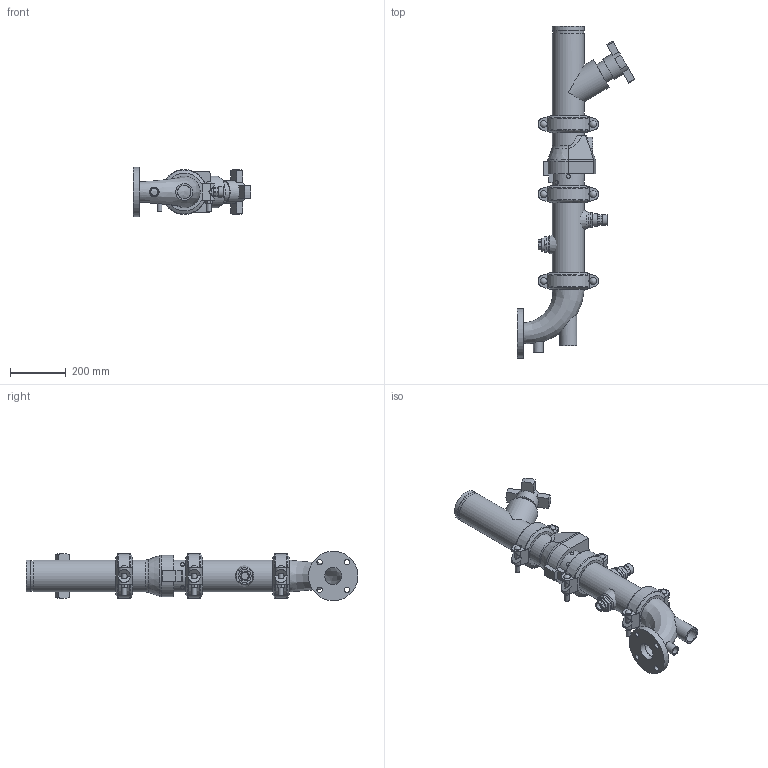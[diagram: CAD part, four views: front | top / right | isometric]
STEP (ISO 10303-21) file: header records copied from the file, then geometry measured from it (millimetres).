
FILE_DESCRIPTION(/* description */ ('VIC DVI PUMP DROP HORZ S/383 (OGSxFLG) (S/924-0.75)','CAx-IF Rec.Pracs.---Representation and Presentation of Product Manufacturing Information (PMI)---4.0---2014-10-13'),/* implementation_level */ '2;1');
FILE_NAME(/* name */ 'C:\Users\Vjadhav\AppData\Roaming\Autodesk\ApplicationPlugins\Victaulic.Temp\A892\Victaulic_IPS_Horizontal DVI_CL 150_Series 383 (OGSxFLG)_924 (0.75)_04.0x02.5 (100x65).stp',/* time_stamp */ '2022-02-28T15:42:36+05:00',/* author */ ('kkamble'),/* organization */ ('Victaulic'),/* preprocessor_version */ 'ST-DEVELOPER v17.2',/* originating_system */ 'Autodesk Inventor 2019',/* authorisation */ '');
FILE_SCHEMA (('AP242_MANAGED_MODEL_BASED_3D_ENGINEERING_MIM_LF { 1 0 10303 442 1 1 4 }'));
Length unit declared in the file: inch
Products named in the file (8): 383-924 (0.75)-04.0x02.5; Pipe-04.0x02.5; 789-04.0; 177N-04.0; 779-04.0; 923-04.0x0.75; 924-04.0x0.75; R100F-04.0x02.5
Assembly tree (9 placements, depth 2):
  383-924 (0.75)-04.0x02.5
    177N-04.0  x3
    Pipe-04.0x02.5
    789-04.0
    779-04.0
    923-04.0x0.75
    924-04.0x0.75
    R100F-04.0x02.5
Bounding box: 423.93 x 1193.8 x 177.8 mm (x, y, z)
Volume: 7948396.5 mm3; surface area: 1379050.7 mm2
Topology: 9 solids, 9 shells, 527 faces, 1409 edges, 939 vertices
Faces by surface type: plane 305, cylinder 175, torus 18, cone 17, sphere 6, bspline 6
Full cylindrical faces by diameter (mm): 13.716 x2, 17.424 x6, 19.05 x4, 23.495 x6, 26.67 x3, 34.29 x1, 38.608 x1, 45.974 x4, 48.26 x1, 55.626 x2, 60.96 x1, 62.713 x1, 72.39 x1, 82.55 x1, 101.6 x3, 102.26 x4, 110.084 x7, 114.3 x18, 177.8 x1
Entity records: 12568 total; most frequent: CARTESIAN_POINT 3244, DIRECTION 1907, ORIENTED_EDGE 1766, EDGE_CURVE 883, AXIS2_PLACEMENT_3D 728, VERTEX_POINT 595, LINE 451, VECTOR 451
